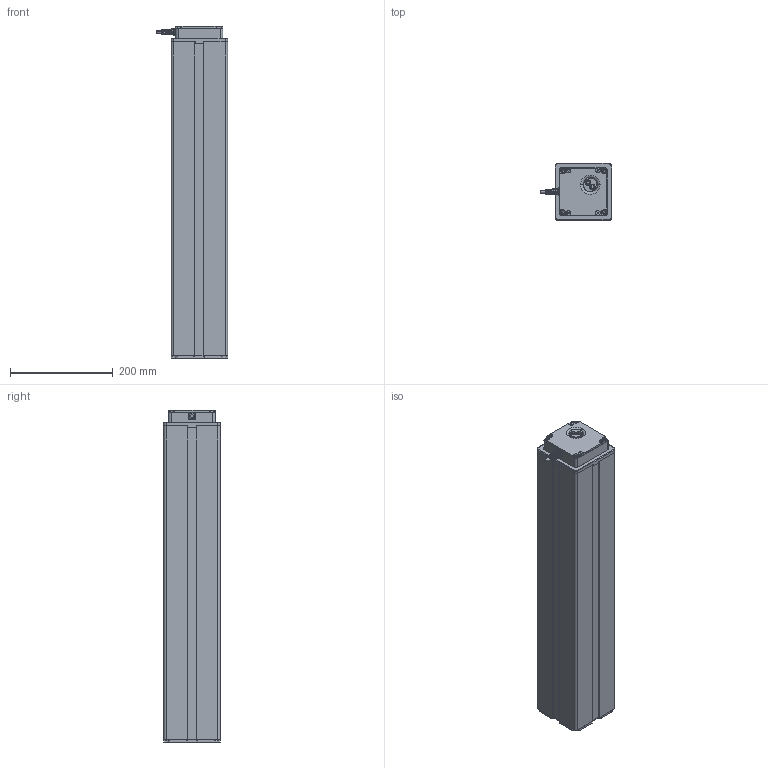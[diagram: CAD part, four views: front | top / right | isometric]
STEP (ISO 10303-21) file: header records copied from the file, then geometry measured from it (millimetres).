
FILE_DESCRIPTION (( 'STEP AP203' ), '1' );
FILE_NAME ('3D_TL19.STEP', '2022-11-02T05:38:55', ( '' ), ( '' ), 'SwSTEP 2.0', 'SolidWorks 2015', '' );
FILE_SCHEMA (( 'CONFIG_CONTROL_DESIGN' ));
Length unit declared in the file: millimetre
Products named in the file (1): 3D_TL19
Bounding box: 138.44 x 110 x 645 mm (x, y, z)
Volume: 7419244.9 mm3; surface area: 723923.7 mm2
Topology: 4 solids, 4 shells, 886 faces, 2188 edges, 1326 vertices
Faces by surface type: cylinder 401, plane 286, bspline 134, torus 33, cone 32
Entity records: 31223 total; most frequent: CARTESIAN_POINT 10969, ORIENTED_EDGE 4344, DIRECTION 4077, EDGE_CURVE 2172, AXIS2_PLACEMENT_3D 1470, VERTEX_POINT 1326, VECTOR 1137, LINE 1137
